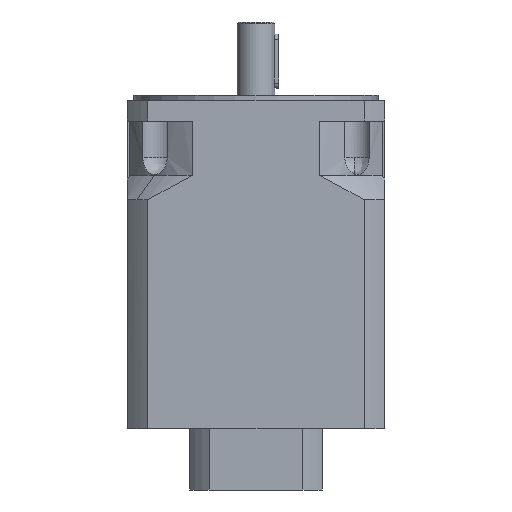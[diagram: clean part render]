
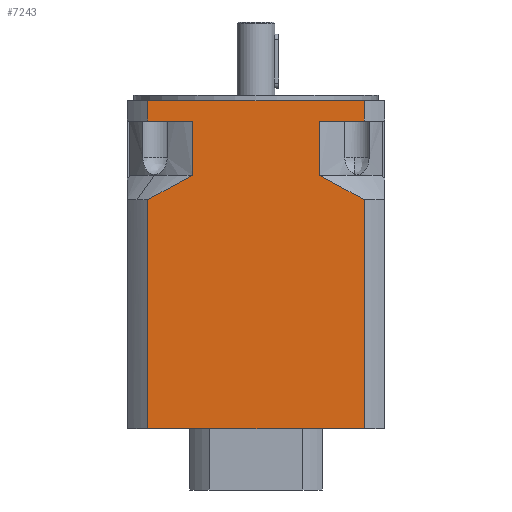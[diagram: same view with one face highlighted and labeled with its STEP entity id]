
A CAD part, front view. The second image highlights one B-rep face of the part: STEP entity #7243.
In plain terms, the highlighted planar face has unit normal (0, -1, 0).
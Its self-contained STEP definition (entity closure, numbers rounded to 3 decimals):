
#4755=CARTESIAN_POINT('',(-79.693,-95.0,287.));
#4756=VERTEX_POINT('',#4755);
#4757=CARTESIAN_POINT('',(79.693,-95.,287.));
#4758=VERTEX_POINT('',#4757);
#4759=CARTESIAN_POINT('',(-79.693,-95.0,287.));
#4760=DIRECTION('',(1.0,0.0,0.0));
#4761=VECTOR('',#4760,159.386);
#4762=LINE('',#4759,#4761);
#4763=EDGE_CURVE('',#4756,#4758,#4762,.T.);
#4915=CARTESIAN_POINT('',(79.693,-95.,272.));
#4916=VERTEX_POINT('',#4915);
#4917=CARTESIAN_POINT('',(79.693,-95.,287.));
#4918=DIRECTION('',(0.0,0.0,-1.0));
#4919=VECTOR('',#4918,15.);
#4920=LINE('',#4917,#4919);
#4921=EDGE_CURVE('',#4758,#4916,#4920,.T.);
#4947=CARTESIAN_POINT('',(-79.693,-95.0,272.));
#4948=VERTEX_POINT('',#4947);
#4949=CARTESIAN_POINT('',(-79.693,-95.0,272.));
#4950=DIRECTION('',(0.0,0.0,1.0));
#4951=VECTOR('',#4950,15.);
#4952=LINE('',#4949,#4951);
#4953=EDGE_CURVE('',#4948,#4756,#4952,.T.);
#5107=CARTESIAN_POINT('',(47.021,-95.0,272.));
#5108=VERTEX_POINT('',#5107);
#5109=CARTESIAN_POINT('',(79.693,-95.,272.));
#5110=DIRECTION('',(-1.0,0.0,0.0));
#5111=VECTOR('',#5110,32.672);
#5112=LINE('',#5109,#5111);
#5113=EDGE_CURVE('',#4916,#5108,#5112,.T.);
#5176=CARTESIAN_POINT('',(-47.021,-95.0,272.));
#5177=VERTEX_POINT('',#5176);
#5178=CARTESIAN_POINT('',(-47.021,-95.0,272.));
#5179=DIRECTION('',(-1.0,0.0,0.0));
#5180=VECTOR('',#5179,32.672);
#5181=LINE('',#5178,#5180);
#5182=EDGE_CURVE('',#5177,#4948,#5181,.T.);
#5639=CARTESIAN_POINT('',(47.021,-95.0,232.));
#5640=VERTEX_POINT('',#5639);
#5648=CARTESIAN_POINT('',(79.693,-95.0,214.0));
#5649=VERTEX_POINT('',#5648);
#5650=CARTESIAN_POINT('',(79.693,-95.0,214.0));
#5651=CARTESIAN_POINT('',(62.079,-95.0,225.321));
#5652=CARTESIAN_POINT('',(47.021,-95.0,232.));
#5660=(BOUNDED_CURVE()B_SPLINE_CURVE(2,(#5650,#5651,#5652),.UNSPECIFIED.,.F.,.U.)B_SPLINE_CURVE_WITH_KNOTS((3,3),(0.324,4.1),.UNSPECIFIED.)CURVE()GEOMETRIC_REPRESENTATION_ITEM()RATIONAL_B_SPLINE_CURVE((1.002,1.011,1.0))REPRESENTATION_ITEM(''));
#5661=EDGE_CURVE('',#5649,#5640,#5660,.T.);
#5821=CARTESIAN_POINT('',(47.021,-95.0,232.));
#5822=DIRECTION('',(0.0,0.0,1.0));
#5823=VECTOR('',#5822,40.);
#5824=LINE('',#5821,#5823);
#5825=EDGE_CURVE('',#5640,#5108,#5824,.T.);
#5874=CARTESIAN_POINT('',(-47.021,-95.0,232.));
#5875=VERTEX_POINT('',#5874);
#5883=CARTESIAN_POINT('',(-47.021,-95.0,272.));
#5884=DIRECTION('',(0.0,0.0,-1.0));
#5885=VECTOR('',#5884,40.);
#5886=LINE('',#5883,#5885);
#5887=EDGE_CURVE('',#5177,#5875,#5886,.T.);
#5922=CARTESIAN_POINT('',(-79.693,-95.,214.));
#5923=VERTEX_POINT('',#5922);
#5931=CARTESIAN_POINT('',(-47.021,-95.,232.));
#5932=CARTESIAN_POINT('',(-62.079,-95.,225.321));
#5933=CARTESIAN_POINT('',(-79.693,-95.,214.));
#5941=(BOUNDED_CURVE()B_SPLINE_CURVE(2,(#5931,#5932,#5933),.UNSPECIFIED.,.F.,.U.)B_SPLINE_CURVE_WITH_KNOTS((3,3),(0.0,3.776),.UNSPECIFIED.)CURVE()GEOMETRIC_REPRESENTATION_ITEM()RATIONAL_B_SPLINE_CURVE((1.0,1.011,1.002))REPRESENTATION_ITEM(''));
#5942=EDGE_CURVE('',#5875,#5923,#5941,.T.);
#6113=CARTESIAN_POINT('',(79.693,-95.0,45.0));
#6114=VERTEX_POINT('',#6113);
#6115=CARTESIAN_POINT('',(-79.693,-95.,45.0));
#6116=VERTEX_POINT('',#6115);
#6117=CARTESIAN_POINT('',(79.693,-95.0,45.0));
#6118=DIRECTION('',(-1.0,0.0,0.0));
#6119=VECTOR('',#6118,159.386);
#6120=LINE('',#6117,#6119);
#6121=EDGE_CURVE('',#6114,#6116,#6120,.T.);
#7214=CARTESIAN_POINT('',(-79.693,-95.0,287.));
#7215=DIRECTION('',(0.0,-1.0,0.0));
#7216=DIRECTION('',(0.0,0.0,-1.0));
#7217=AXIS2_PLACEMENT_3D('',#7214,#7215,#7216);
#7218=PLANE('',#7217);
#7219=ORIENTED_EDGE('',*,*,#5887,.T.);
#7220=ORIENTED_EDGE('',*,*,#5942,.T.);
#7221=CARTESIAN_POINT('',(-79.693,-95.,214.));
#7222=DIRECTION('',(0.0,0.0,-1.0));
#7223=VECTOR('',#7222,169.);
#7224=LINE('',#7221,#7223);
#7225=EDGE_CURVE('',#5923,#6116,#7224,.T.);
#7226=ORIENTED_EDGE('',*,*,#7225,.T.);
#7227=ORIENTED_EDGE('',*,*,#6121,.F.);
#7228=CARTESIAN_POINT('',(79.693,-95.0,214.0));
#7229=DIRECTION('',(0.0,0.0,-1.0));
#7230=VECTOR('',#7229,169.0);
#7231=LINE('',#7228,#7230);
#7232=EDGE_CURVE('',#5649,#6114,#7231,.T.);
#7233=ORIENTED_EDGE('',*,*,#7232,.F.);
#7234=ORIENTED_EDGE('',*,*,#5661,.T.);
#7235=ORIENTED_EDGE('',*,*,#5825,.T.);
#7236=ORIENTED_EDGE('',*,*,#5113,.F.);
#7237=ORIENTED_EDGE('',*,*,#4921,.F.);
#7238=ORIENTED_EDGE('',*,*,#4763,.F.);
#7239=ORIENTED_EDGE('',*,*,#4953,.F.);
#7240=ORIENTED_EDGE('',*,*,#5182,.F.);
#7241=EDGE_LOOP('',(#7219,#7220,#7226,#7227,#7233,#7234,#7235,#7236,#7237,#7238,#7239,#7240));
#7242=FACE_OUTER_BOUND('',#7241,.T.);
#7243=ADVANCED_FACE('',(#7242),#7218,.T.);
